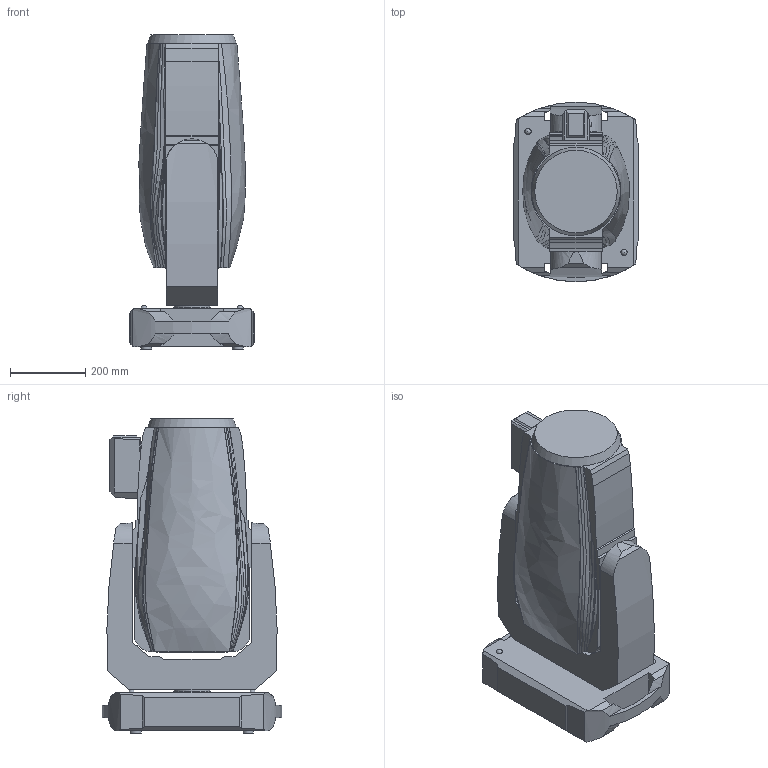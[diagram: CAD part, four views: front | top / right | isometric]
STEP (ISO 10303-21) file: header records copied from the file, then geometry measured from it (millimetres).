
FILE_DESCRIPTION(/* description */ ('Unknown'),/* implementation_level */ '2;1');
FILE_NAME(/* name */ '3D-iForte FoSp',/* time_stamp */ '2023-10-30T16:13:36+01:00',/* author */ ('Unknown'),/* organization */ ('Unknown'),/* preprocessor_version */ 'ST-DEVELOPER v18.104',/* originating_system */ 'Solid Edge',/* authorisation */ 'Unknown');
FILE_SCHEMA (('AUTOMOTIVE_DESIGN {1 0 10303 214 3 1 1}'));
Length unit declared in the file: millimetre
Products named in the file (5): 3D-iForte FoSp; iForte-Base; iForte-Arm; iForte-Head; iForte-Camera
Assembly tree (4 placements, depth 2):
  3D-iForte FoSp
    iForte-Base
    iForte-Arm
    iForte-Head
    iForte-Camera
Bounding box: 335.42 x 478.88 x 836.79 mm (x, y, z)
Volume: 66790712.2 mm3; surface area: 1739765.4 mm2
Topology: 4 solids, 4 shells, 204 faces, 572 edges, 383 vertices
Faces by surface type: plane 119, bspline 51, cylinder 31, torus 2, cone 1
Full cylindrical faces by diameter (mm): 13 x2, 27.261 x2, 29.966 x2, 50 x3, 95.486 x1, 97.471 x1
Entity records: 8548 total; most frequent: CARTESIAN_POINT 3640, ORIENTED_EDGE 1092, DIRECTION 795, EDGE_CURVE 546, VERTEX_POINT 373, LINE 315, VECTOR 315, AXIS2_PLACEMENT_3D 240
